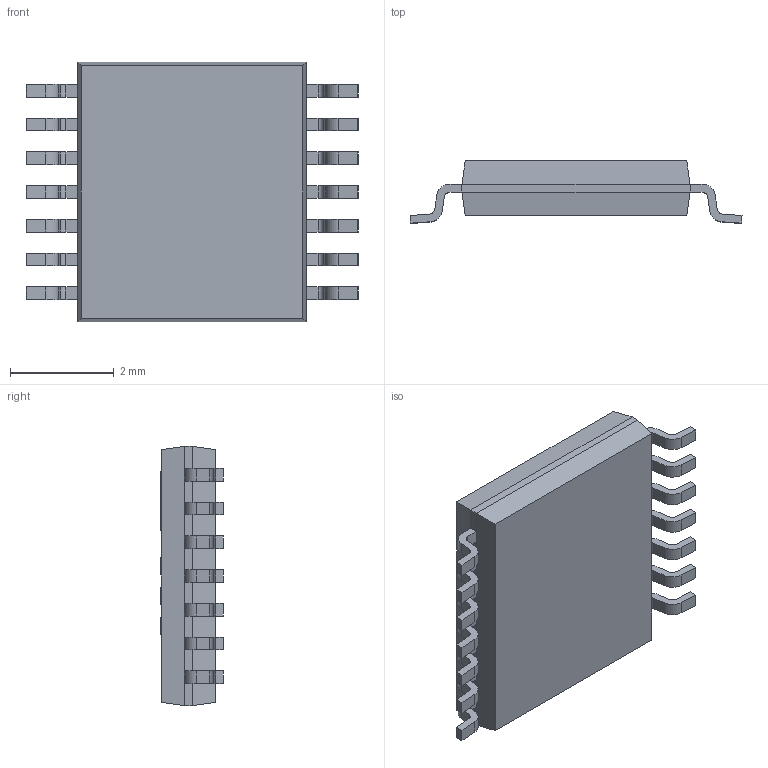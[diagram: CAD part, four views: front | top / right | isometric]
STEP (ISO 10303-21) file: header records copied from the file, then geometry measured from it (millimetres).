
FILE_DESCRIPTION(/* description */ ('STEP AP214'),/* implementation_level */ '2;1');
FILE_NAME(/* name */ 'METUPowerLab_CircuitProtections_MultipleProtectors_TSSOP-14-TPS2492PWR.step',/* time_stamp */ '2025-09-19T22:10:54+03:00',/* author */ (''),/* organization */ (''),/* preprocessor_version */ 'ST-DEVELOPER v20.1',/* originating_system */ 'Autodesk Translation Framework v14.17.0.0',/* authorisation */ '');
FILE_SCHEMA (('AUTOMOTIVE_DESIGN { 1 0 10303 214 3 1 1 }'));
Length unit declared in the file: millimetre
Products named in the file (1): PW14
Bounding box: 6.4 x 1.21 x 5 mm (x, y, z)
Volume: 23.3 mm3; surface area: 78.9 mm2
Topology: 16 solids, 16 shells, 1156 faces, 3229 edges, 2150 vertices
Faces by surface type: bspline 569, plane 529, cylinder 58
Full cylindrical faces by diameter (mm): 0.55 x2
Entity records: 41156 total; most frequent: CARTESIAN_POINT 15603, ORIENTED_EDGE 6458, DIRECTION 3374, EDGE_CURVE 3229, VERTEX_POINT 2150, LINE 1966, VECTOR 1966, EDGE_LOOP 1201
